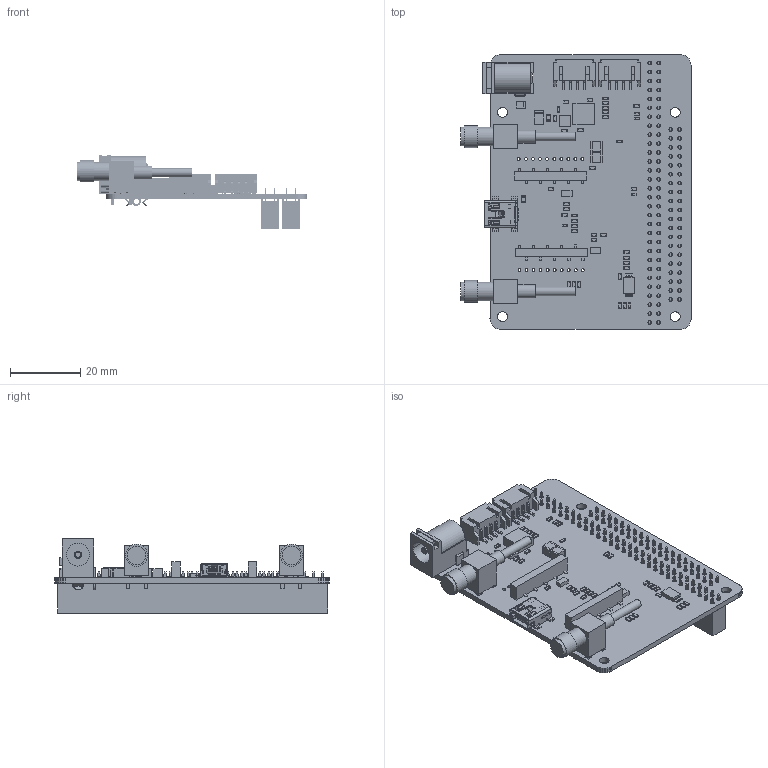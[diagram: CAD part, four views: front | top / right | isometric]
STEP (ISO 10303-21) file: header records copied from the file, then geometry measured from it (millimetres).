
FILE_DESCRIPTION(('Open CASCADE Model'),'2;1');
FILE_NAME('Open CASCADE Shape Model','2017-07-28T13:18:42',('Author'),( 'Open CASCADE'),'Open CASCADE STEP processor 6.5','Open CASCADE 6.5' ,'Unknown');
FILE_SCHEMA(('AUTOMOTIVE_DESIGN { 1 0 10303 214 1 1 1 1 }'));
Length unit declared in the file: millimetre
Products named in the file (116): PCB; Board; R34; RES0603; R33; R32; R31; R8; R6; J11; _____C302LFBN-RC; U1; 634401248; Extruded; R30; R29; R25; R24; R21; R20; R9; R7; R5; L1; 634396768; D2; 634397664; 634397536; C12; C11; C10; RES0805; C9; C3; C2; 634401504; 634401888; C1; J101; 634399584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
Assembly tree (207 placements, depth 4):
  PCB
    Board
    R34
      RES0603
    R33
      RES0603
    R32
      RES0603
    R31
      RES0603
    R8
      RES0603
    R6
      RES0603
    J11
      _____C302LFBN-RC
    U1
      634401248
        Extruded
    R30
      RES0603
    R29
      RES0603
    R25
      RES0603
    R24
      RES0603
    R21
      RES0603
    R20
      RES0603
    R9
      RES0603
    R7
      RES0603
    R5
      RES0603
    L1
      634396768
        Extruded
    D2
      634397664
        Extruded
      634397536
        Extruded
    C12
      RES0603
    C11
      RES0603
    C10
      RES0805
    C9
      RES0603
    C3
      RES0603
    C2
      634401504
        Extruded
      634401888  x2
        Extruded
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Bounding box: 65.35 x 78.05 x 21.09 mm (x, y, z)
Volume: 15343.6 mm3; surface area: 28226.3 mm2
Topology: 355 solids, 358 shells, 7870 faces, 21022 edges, 13935 vertices
Faces by surface type: plane 5178, cylinder 1386, bspline 1304, cone 2
Full cylindrical faces by diameter (mm): 0.8 x20, 0.9 x2, 1.016 x100, 1.651 x8, 2.413 x2, 2.794 x4, 3.683 x2, 5.283 x2, 6.248 x2
Entity records: 453291 total; most frequent: CARTESIAN_POINT 105111, DIRECTION 57345, LINE 38090, VECTOR 38090, ORIENTED_EDGE 36424, PCURVE 36423, DEFINITIONAL_REPRESENTATION 36423, EDGE_CURVE 18222
